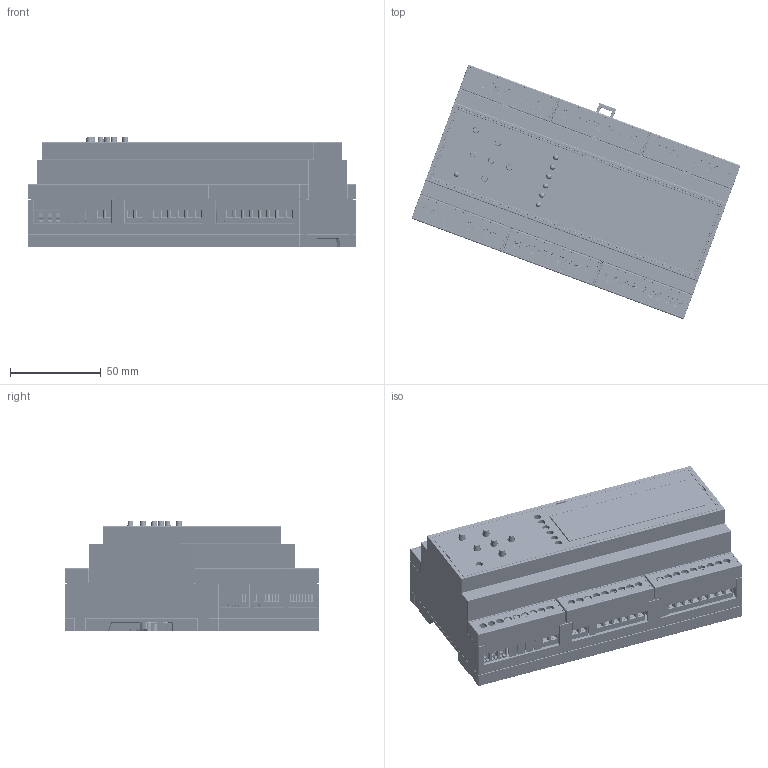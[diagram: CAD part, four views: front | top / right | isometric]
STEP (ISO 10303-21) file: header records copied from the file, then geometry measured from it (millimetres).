
FILE_DESCRIPTION(/* description */ (''),/* implementation_level */ '2;1');
FILE_NAME(/* name */ 'E:\Документы\Проекты ТЕРМ\ТЕРМ-2000\3Д-модель ТЕРМ-2000\ТЕРМ-2000.stp',/* time_stamp */ '2024-05-16T13:16:56+05:00',/* author */ ('Vlad'),/* organization */ (''),/* preprocessor_version */ 'ST-DEVELOPER v15.6',/* originating_system */ 'Autodesk Inventor 2015',/* authorisation */ '');
FILE_SCHEMA (('CONFIG_CONTROL_DESIGN'));
Products named in the file (98): D9MG корпус; Светодиод \X2\043A
044004300441043D044B0439\X0\; Кнопка 0670; Светодиод \X2\0437
0435043B0451043D044B0439\X0\; Board; RTB10173; RDX0032; DD5; SOIC-14_Narrow__3.9mm; SOIC-14_Narrow__3.9mm_1; SOIC-14_Narrow__3.9mm_2; SOIC-14_Narrow__3.9mm_3; SOIC-14_Narrow__3.9mm_4; SOIC-14_Narrow__3.9mm_5; SOIC-14_Narrow__3.9mm_6; SOIC-14_Narrow__3.9mm_7; SOIC-14_Narrow__3.9mm_8; SOIC-14_Narrow__3.9mm_9; SOIC-14_Narrow__3.9mm_10; SOIC-14_Narrow__3.9mm_11; SOIC-14_Narrow__3.9mm_12; SOIC-14_Narrow__3.9mm_13; SOIC-14_Narrow__3.9mm_14; DD4; ТЕРМ-2000 верх 
2.0; Светодиод \X2\0436
0451043B0442044B0439\X0\; Светодиод \X2\0431
0435043B044B0439\X0\; D9MG крышка; DG300-5.0-03p-12; X20; DG129-5.0-02p-14; X19; X18; X17; X16; X15; X14; X13; X12; X10 ...
Assembly tree (175 placements, depth 5):
  ТЕРМ-2000
    D9MG корпус
    Светодиод \X2\043A
044004300441043D044B0439\X0\
    Кнопка 0670  x6
    Светодиод \X2\0437
0435043B0451043D044B0439\X0\  x4
    ТЕРМ-2000 верх 
2.0
      Board
      DD5
        RTB10173
        RDX0032
      DD4
        SOIC-14_Narrow__3.9mm
        SOIC-14_Narrow__3.9mm_1
        SOIC-14_Narrow__3.9mm_2
        SOIC-14_Narrow__3.9mm_3
        SOIC-14_Narrow__3.9mm_4
        SOIC-14_Narrow__3.9mm_5
        SOIC-14_Narrow__3.9mm_6
        SOIC-14_Narrow__3.9mm_7
        SOIC-14_Narrow__3.9mm_8
        SOIC-14_Narrow__3.9mm_9
        SOIC-14_Narrow__3.9mm_10
        SOIC-14_Narrow__3.9mm_11
        SOIC-14_Narrow__3.9mm_12
        SOIC-14_Narrow__3.9mm_13
        SOIC-14_Narrow__3.9mm_14
    Светодиод \X2\0436
0451043B0442044B0439\X0\
    Светодиод \X2\0431
0435043B044B0439\X0\
    D9MG крышка
    ТЕРМ-2000 низ 3.
0
      Board
      X20
        DG300-5.0-03p-12
      X19
        DG129-5.0-02p-14
      X18
        DG129-5.0-02p-14
      X17
        DG129-5.0-02p-14
      X16
        DG129-5.0-02p-14
      X15
        DG129-5.0-02p-14
      X14
        DG129-5.0-02p-14
      X13
        DG129-5.0-02p-14
      X12
        DG129-5.0-02p-14
      X10
        DG129-5.0-02p-14
      X9
        DG300-5.0-03p-12
      X8
        DG300-5.0-03p-12
      X7
        DG300-5.0-03p-12
      X6
        DG300-5.0-03p-12
      X5
Bounding box: 181.36 x 140.33 x 61.15 mm (x, y, z)
Volume: 168904.1 mm3; surface area: 223254.7 mm2
Topology: 214 solids, 214 shells, 9498 faces, 23994 edges, 15073 vertices
Faces by surface type: plane 4929, cylinder 3253, torus 591, bspline 299, sphere 221, cone 205
Full cylindrical faces by diameter (mm): 0.1 x12, 0.4 x16, 0.5 x14, 0.6 x1, 0.8 x112, 1 x132, 1.15 x48, 1.2 x72, 1.3 x20, 2 x4, 2.5 x2, 3 x7, 3.5 x18, 3.9 x37, 4 x7, 4.2 x54, 4.3 x4, 4.5 x6
Entity records: 170280 total; most frequent: CARTESIAN_POINT 32140, DIRECTION 28582, ORIENTED_EDGE 26862, EDGE_CURVE 13431, AXIS2_PLACEMENT_3D 9810, LINE 8962, VECTOR 8962, VERTEX_POINT 8846
